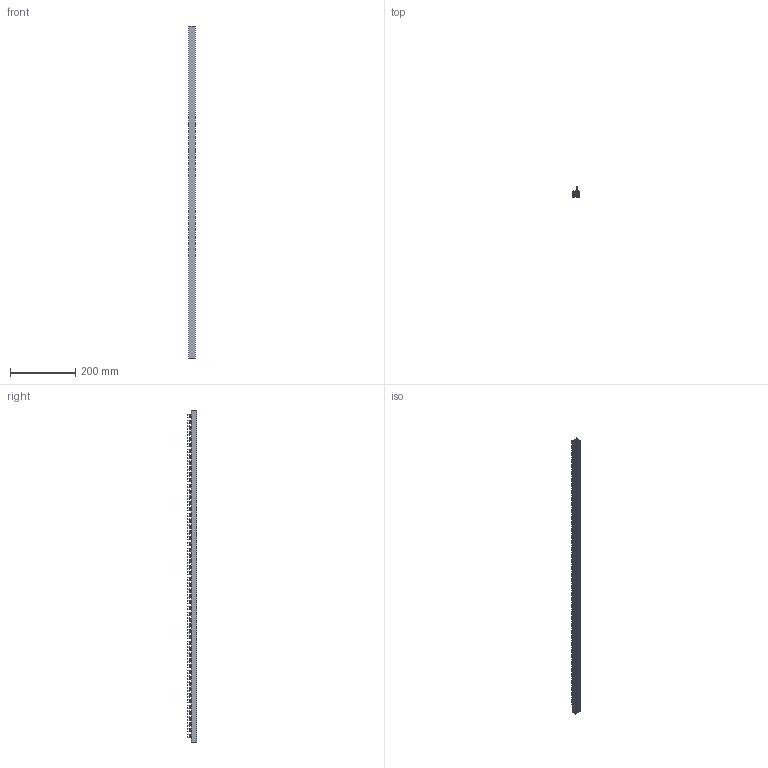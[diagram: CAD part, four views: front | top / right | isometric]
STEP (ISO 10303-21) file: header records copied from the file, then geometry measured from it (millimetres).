
FILE_DESCRIPTION (( 'STEP AP214' ), '1' );
FILE_NAME ('G4L-1000-16.step', '2011-08-05T08:23:57', ( 'Radek Veselý' ), ( 'Siemens and Partners' ), 'SwSTEP 2.0', 'SolidWorks 2006303', '' );
FILE_SCHEMA (( 'AUTOMOTIVE_DESIGN' ));
Length unit declared in the file: millimetre
Products named in the file (1): G4L-1000-16
Bounding box: 20.42 x 30 x 1016 mm (x, y, z)
Volume: 196404.1 mm3; surface area: 360095.7 mm2
Topology: 5 solids, 5 shells, 1717 faces, 4673 edges, 2966 vertices
Faces by surface type: cylinder 941, plane 776
Entity records: 72347 total; most frequent: CARTESIAN_POINT 10701, ORIENTED_EDGE 9346, DIRECTION 8647, EDGE_CURVE 4673, VECTOR 3239, LINE 3239, VERTEX_POINT 2966, AXIS2_PLACEMENT_3D 2704
